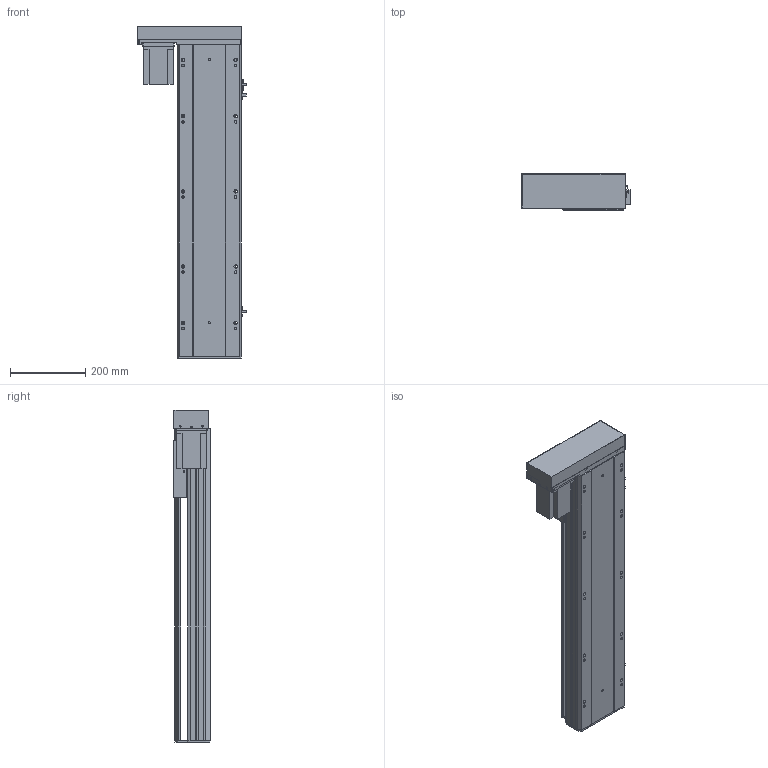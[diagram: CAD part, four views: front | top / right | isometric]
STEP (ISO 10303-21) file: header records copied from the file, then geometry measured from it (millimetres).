
FILE_DESCRIPTION (( 'STEP AP203' ), '1' );
FILE_NAME ('Y170-D10-S600-BL-P750W.STEP', '2020-01-19T22:56:57', ( '微软用户' ), ( '微软中国' ), 'SwSTEP 2.0', 'SolidWorks 2017', '' );
FILE_SCHEMA (( 'CONFIG_CONTROL_DESIGN' ));
Length unit declared in the file: millimetre
Products named in the file (12): Y170耜裔--準---; YD-Y100-135-新外置传感挡片(通用）; Y100-135俋离換覜ん; Y雄赽釱-耜蚾; 170--掛极-BR; Y-BL.BR-俋欶; Y170-BL-P750W楊擘啣; Y170-陔遴奻裔-BR; 侂狟750W; Y--BL蟀諉啣-陔遴-; EGH20賑輸_蕼偞; Y170-D10-S600-BL-P750W
Assembly tree (14 placements, depth 2):
  Y170-D10-S600-BL-P750W
    Y170耜裔--準---
    YD-Y100-135-新外置传感挡片(通用）
    Y100-135俋离換覜ん  x3
    170--掛极-BR
    Y170-BL-P750W楊擘啣
    侂狟750W
    EGH20賑輸_蕼偞  x2
    Y雄赽釱-耜蚾
    Y-BL.BR-俋欶
    Y170-陔遴奻裔-BR
    Y--BL蟀諉啣-陔遴-
Bounding box: 289 x 97 x 883.5 mm (x, y, z)
Volume: 4594996.8 mm3; surface area: 1549721.7 mm2
Topology: 14 solids, 14 shells, 909 faces, 2546 edges, 1680 vertices
Faces by surface type: cylinder 450, plane 443, cone 16
Entity records: 28570 total; most frequent: CARTESIAN_POINT 4998, DIRECTION 4748, ORIENTED_EDGE 4588, EDGE_CURVE 2294, AXIS2_PLACEMENT_3D 1682, VERTEX_POINT 1524, VECTOR 1384, LINE 1384
